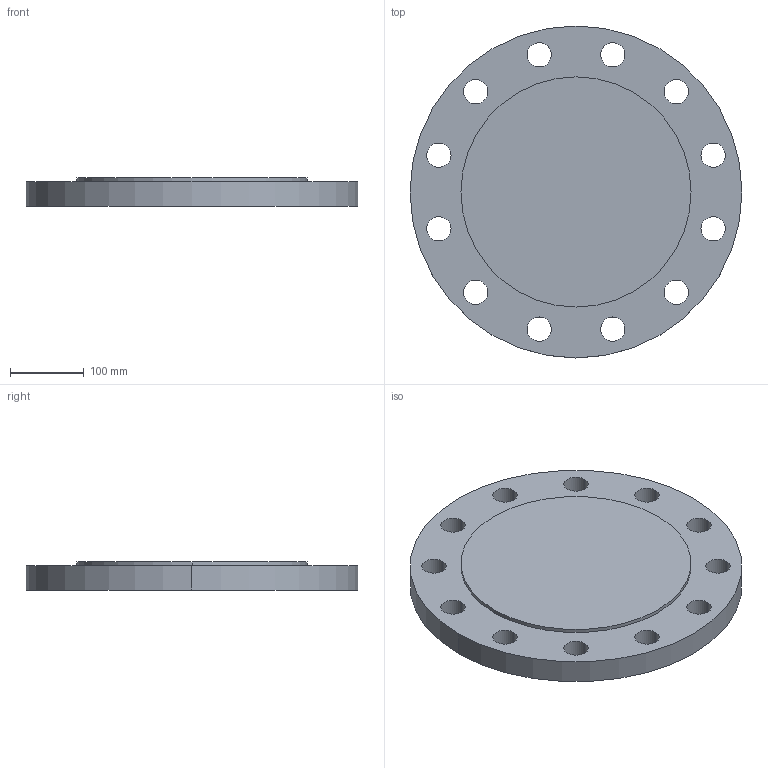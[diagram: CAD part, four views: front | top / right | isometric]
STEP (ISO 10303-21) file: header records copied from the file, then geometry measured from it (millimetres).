
FILE_DESCRIPTION (( 'STEP AP214' ), '1' );
FILE_NAME ('PN40 DN250 Type 05 - Type E Face.STEP', '2019-01-05T16:14:44', ( '' ), ( '' ), 'SwSTEP 2.0', 'SolidWorks 2019', '' );
FILE_SCHEMA (( 'AUTOMOTIVE_DESIGN' ));
Length unit declared in the file: millimetre
Products named in the file (1): PN40 DN250 Type 05 - Type E Face
Bounding box: 450 x 450 x 38 mm (x, y, z)
Volume: 5291994 mm3; surface area: 390167 mm2
Topology: 1 solids, 1 shells, 31 faces, 84 edges, 56 vertices
Faces by surface type: cylinder 28, plane 3
Entity records: 1096 total; most frequent: DIRECTION 204, CARTESIAN_POINT 172, ORIENTED_EDGE 168, AXIS2_PLACEMENT_3D 88, EDGE_CURVE 84, CIRCLE 56, VERTEX_POINT 56, EDGE_LOOP 56
